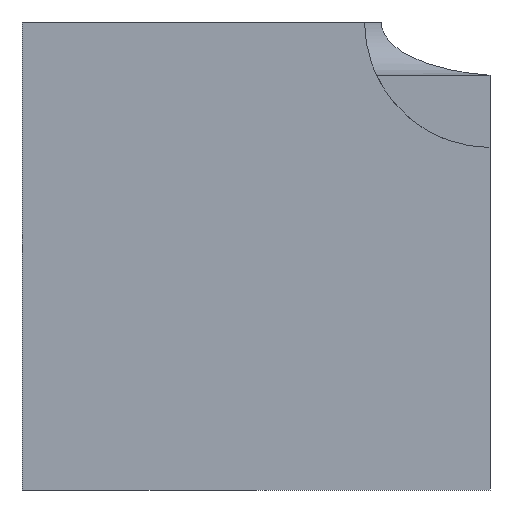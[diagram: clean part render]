
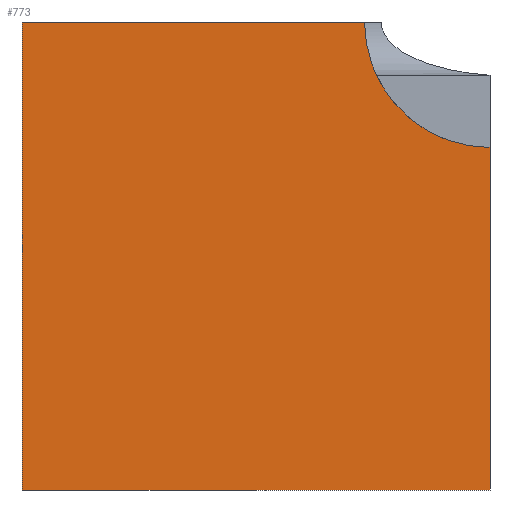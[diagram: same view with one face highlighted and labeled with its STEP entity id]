
A CAD part, left-side view. The second image highlights one B-rep face of the part: STEP entity #773.
In plain terms, the highlighted planar face has unit normal (-1, 0, 0).
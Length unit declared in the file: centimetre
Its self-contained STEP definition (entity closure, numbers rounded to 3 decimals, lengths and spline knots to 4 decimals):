
#42 = EDGE_CURVE ( 'NONE', #1004, #408, #88, .T. ) ;
#88 = LINE ( 'NONE', #918, #745 ) ;
#159 = CARTESIAN_POINT ( 'NONE',  ( 0., 0., 1000. ) ) ;
#181 = VERTEX_POINT ( 'NONE', #634 ) ;
#193 = CARTESIAN_POINT ( 'NONE',  ( 0., 1000., 1000. ) ) ;
#205 = CARTESIAN_POINT ( 'NONE',  ( 0., 1000., 0. ) ) ;
#222 = VERTEX_POINT ( 'NONE', #525 ) ;
#261 = CARTESIAN_POINT ( 'NONE',  ( 0., 1000., 1000. ) ) ;
#262 = ORIENTED_EDGE ( 'NONE', *, *, #42, .F. ) ;
#271 = ORIENTED_EDGE ( 'NONE', *, *, #1277, .T. ) ;
#300 = DIRECTION ( 'NONE',  ( 0., 0., -1. ) ) ;
#372 = DIRECTION ( 'NONE',  ( 0., -1., 0. ) ) ;
#382 = AXIS2_PLACEMENT_3D ( 'NONE', #193, #1100, #300 ) ;
#387 = PLANE ( 'NONE',  #382 ) ;
#408 = VERTEX_POINT ( 'NONE', #566 ) ;
#453 = EDGE_CURVE ( 'NONE', #814, #222, #788, .T. ) ;
#471 = VECTOR ( 'NONE', #891, 100. ) ;
#493 = CIRCLE ( 'NONE', #953, 268.201 ) ;
#525 = CARTESIAN_POINT ( 'NONE',  ( 0., 0., 0. ) ) ;
#561 = VECTOR ( 'NONE', #1304, 100. ) ;
#566 = CARTESIAN_POINT ( 'NONE',  ( 0., 268.201, 1000. ) ) ;
#610 = LINE ( 'NONE', #205, #631 ) ;
#631 = VECTOR ( 'NONE', #934, 100. ) ;
#634 = CARTESIAN_POINT ( 'NONE',  ( 0., 1000., 0. ) ) ;
#692 = EDGE_CURVE ( 'NONE', #408, #814, #493, .T. ) ;
#717 = FACE_OUTER_BOUND ( 'NONE', #722, .T. ) ;
#722 = EDGE_LOOP ( 'NONE', ( #1146, #952, #262, #271, #1138 ) ) ;
#745 = VECTOR ( 'NONE', #372, 100. ) ;
#757 = DIRECTION ( 'NONE',  ( -1., 0., 0. ) ) ;
#773 = ADVANCED_FACE ( 'NONE', ( #717 ), #387, .F. ) ;
#788 = LINE ( 'NONE', #1107, #561 ) ;
#814 = VERTEX_POINT ( 'NONE', #1298 ) ;
#891 = DIRECTION ( 'NONE',  ( 0., 0., -1. ) ) ;
#918 = CARTESIAN_POINT ( 'NONE',  ( 0., 1000., 1000. ) ) ;
#934 = DIRECTION ( 'NONE',  ( 0., -1., 0. ) ) ;
#950 = CARTESIAN_POINT ( 'NONE',  ( 0., 1000., 1000. ) ) ;
#952 = ORIENTED_EDGE ( 'NONE', *, *, #692, .F. ) ;
#953 = AXIS2_PLACEMENT_3D ( 'NONE', #159, #757, #1289 ) ;
#1004 = VERTEX_POINT ( 'NONE', #950 ) ;
#1100 = DIRECTION ( 'NONE',  ( 1., 0., 0. ) ) ;
#1107 = CARTESIAN_POINT ( 'NONE',  ( 0., 0., 1000. ) ) ;
#1138 = ORIENTED_EDGE ( 'NONE', *, *, #1139, .T. ) ;
#1139 = EDGE_CURVE ( 'NONE', #181, #222, #610, .T. ) ;
#1146 = ORIENTED_EDGE ( 'NONE', *, *, #453, .F. ) ;
#1188 = LINE ( 'NONE', #261, #471 ) ;
#1277 = EDGE_CURVE ( 'NONE', #1004, #181, #1188, .T. ) ;
#1289 = DIRECTION ( 'NONE',  ( 0., 0., 1. ) ) ;
#1298 = CARTESIAN_POINT ( 'NONE',  ( 0., 0., 731.799 ) ) ;
#1304 = DIRECTION ( 'NONE',  ( 0., 0., -1. ) ) ;
